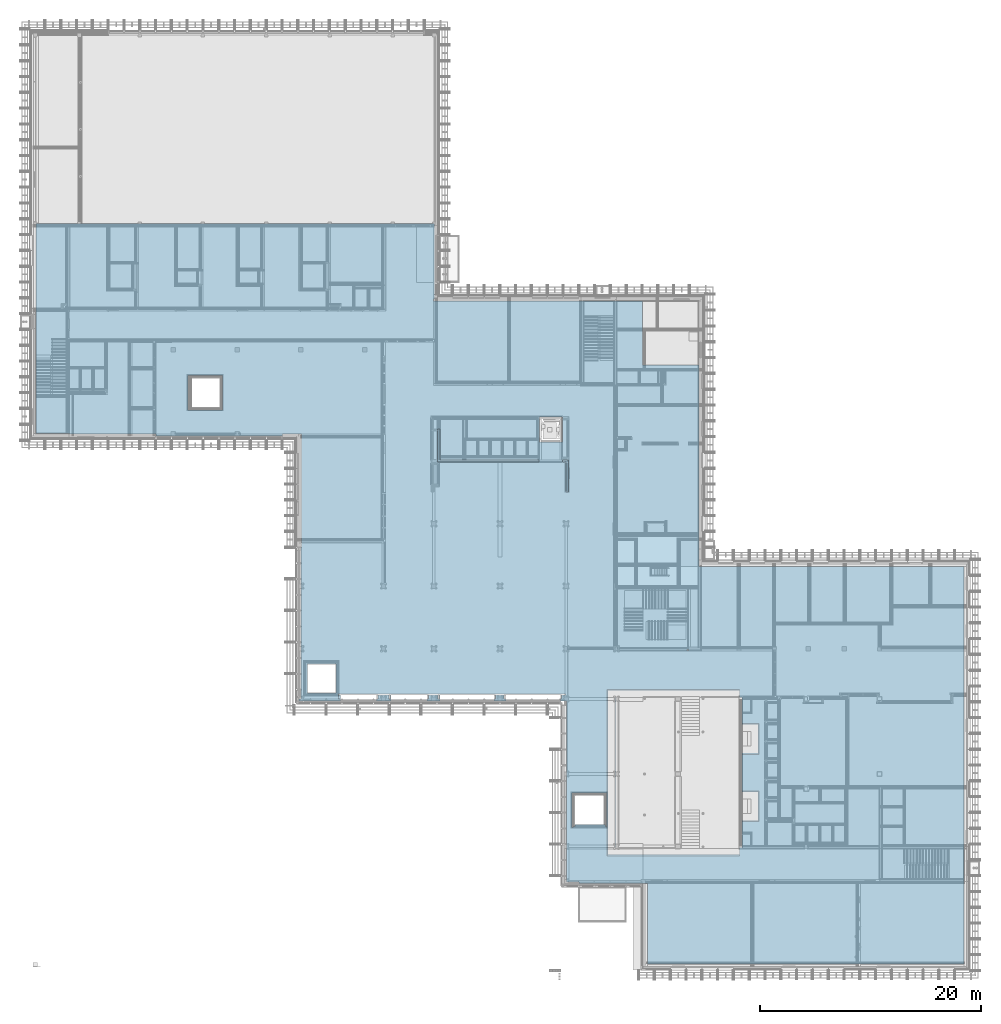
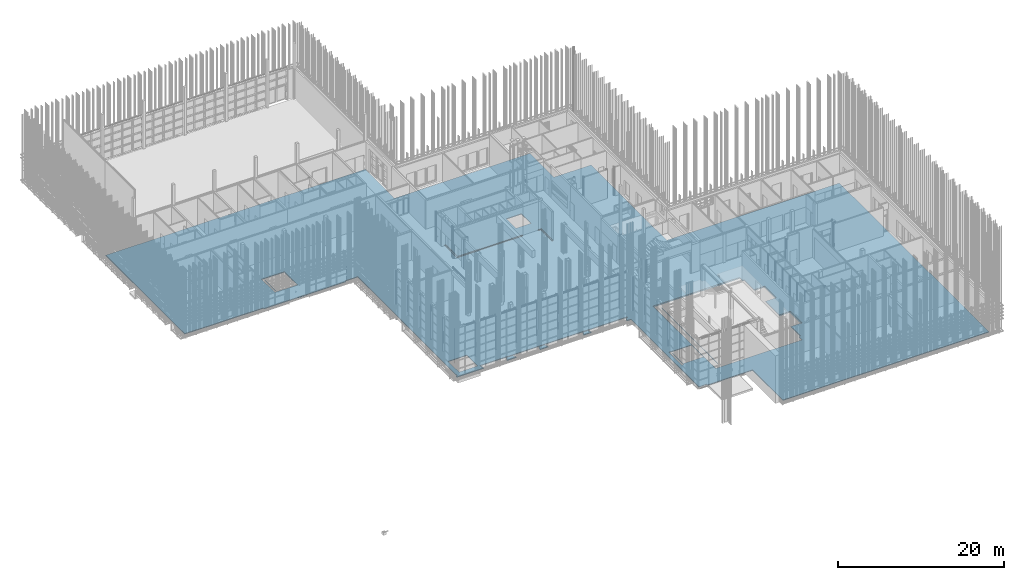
# One storey, part 165 of 260: 1 building element part, 1 element without a shape of its own.
"""IFC2X3 building model written with IfcOpenShell, lengths in millimetres."""

from ifc_helpers import new_model, entity, si_unit, converted_unit, derived_unit, money_unit, direction, frame, origin_with_axes, place, context, subcontext, project, spatial, faceted_brep, material, type_object, element, aggregate, save


model = new_model("IFC2X3")

# Units and contexts
model_context = context("Model", 3, precision=0.01, world=origin_with_axes(), true_north=direction((0.0, 1.0)))
body_context = subcontext(model_context, "Body", "Model", "MODEL_VIEW")
ifc_project = project(units=[si_unit("LENGTHUNIT", "METRE", prefix="MILLI"), si_unit("AREAUNIT", "SQUARE_METRE"), si_unit("VOLUMEUNIT", "CUBIC_METRE"), converted_unit("PLANEANGLEUNIT", "DEGREE", entity("IfcPlaneAngleMeasure", 0.0174532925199), si_unit("PLANEANGLEUNIT", "RADIAN"), dimensions=[0, 0, 0, 0, 0, 0, 0]), money_unit("EUR"), converted_unit("TIMEUNIT", "Year", entity("IfcTimeMeasure", 31556926.0), si_unit("TIMEUNIT", "SECOND"), dimensions=[0, 0, 1, 0, 0, 0, 0]), si_unit("MASSUNIT", "GRAM", prefix="KILO"), si_unit("THERMODYNAMICTEMPERATUREUNIT", "DEGREE_CELSIUS"), si_unit("LUMINOUSINTENSITYUNIT", "LUMEN"), si_unit("ENERGYUNIT", "JOULE", prefix="MEGA"), derived_unit("THERMALCONDUCTANCEUNIT", [(si_unit("POWERUNIT", "WATT"), 1), (si_unit("LENGTHUNIT", "METRE"), -1), (si_unit("THERMODYNAMICTEMPERATUREUNIT", "KELVIN"), -1)]), derived_unit("SPECIFICHEATCAPACITYUNIT", [(si_unit("ENERGYUNIT", "JOULE"), 1), (si_unit("MASSUNIT", "GRAM", prefix="KILO"), -1), (si_unit("THERMODYNAMICTEMPERATUREUNIT", "KELVIN"), -1)]), derived_unit("MASSDENSITYUNIT", [(si_unit("MASSUNIT", "GRAM", prefix="KILO"), 1), (si_unit("VOLUMEUNIT", "CUBIC_METRE"), -1)])], contexts=[model_context])

# Site, building, storey
site_placement = place(None, origin_with_axes())
site = spatial("IfcSite", under=ifc_project, at=site_placement, Name="Kolde pst 67a", CompositionType="ELEMENT")
building_placement = place(site_placement, origin_with_axes())
building = spatial("IfcBuilding", under=site, at=building_placement, Name="Riigigümnaasium", CompositionType="ELEMENT")
storey_placement = place(building_placement, origin_with_axes())
storey = spatial("IfcBuildingStorey", under=building, at=storey_placement, Name="1. korrus", CompositionType="ELEMENT", Elevation=0.0)

# Slab, building element part
slab_type = type_object("IfcSlabType", Name="PP-RBM-10/1_EPS 200 500", PredefinedType="NOTDEFINED")
slab_placement = place(storey_placement, frame((266.322784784, 67249.9971514, 0.0), z_axis=(0.0, 0.0, 1.0), x_axis=(1.0, 0.0, 0.0)))
slab = element("IfcSlab", 1, at=slab_placement, inside=storey, type_object=slab_type, Name="Põrand pinnasel", PredefinedType="NOTDEFINED")
ifc_material = material(Name="_SOOJUSTUS - vahtpolüstüreenplaadid EPS 120 Perimeeter, survetugevus min 120kPa, veeimavus <2%, soojuserijuhtivus λD<0,036 W/(mK)")
building_element_part_placement = place(slab_placement, origin_with_axes())
building_element_part = element("IfcBuildingElementPart", 2, at=building_element_part_placement, material=ifc_material, Name="_SOOJUSTUS - vahtpolüstüreenplaadid EPS 120 Perimeeter, survetugevus min 120kPa, veeimavus <2%, soojuserijuhtivus λD<0,036 W/(mK)", context=body_context, shape_type="Brep", body=[
    faceted_brep([(27381.5095656, -43000.0189812, -200.1), (27531.5095656, -43000.0206928, -200.1), (27531.5095656, -42650.2966921, -200.1), (27557.7759921, -42650.2966876, -200.1), (27557.7759921, -43209.7267572, -200.1), (23799.9457899, -43209.7267572, -200.1), (23799.9460972, -42999.9781126, -200.1), (23973.6799494, -42999.980095, -200.1), (23973.6799494, -29299.5005252, -200.1), (23999.9463759, -29299.500562, -200.1), (23999.9463759, -19050.0166275, -200.1), (22288.5650026, -19050.0163206, -200.1), (22288.5650026, -19210.0163206, -200.1), (10868.5385943, -19210.0163206, -200.1), (10868.5385943, -19050.0164764, -200.1), (2999.88406448, -19050.0165838, -200.1), (2999.88406628, -19009.9992035, -200.1), (0.0, -19010.7371507, -200.1), (0.0, 0.0, -200.1), (36039.9429015, 0.0, -200.1), (36039.9416319, -6809.99696703, -200.1), (35973.6764556, -6809.99696703, -200.1), (35973.6764556, -7009.99696703, -200.1), (54850.6592908, -7009.99696703, -200.1), (54850.6592908, -12479.9970931, -200.1), (54850.6592908, -12729.9970931, -200.1), (54876.9257173, -12729.9970931, -200.1), (54876.9257173, -12779.9970931, -200.1), (59999.9377357, -12779.9970931, -200.1), (59999.9377357, -31009.9974516, -200.1), (83973.6765431, -31009.9974516, -200.1), (83973.6765431, -67009.9971514, -200.1), (55329.9241436, -67009.9971514, -200.1), (55329.9251795, -59729.9852703, -200.1), (49105.2284207, -59729.9962674, -200.1), (49105.2303604, -59560.0076119, -200.1), (47983.4761046, -59559.9948118, -200.1), (47983.6626713, -43209.9991185, -200.1), (47799.9291214, -43209.997022, -200.1), (47436.9477703, -43209.9971514, -200.1), (47436.9477703, -42989.9933365, -200.1), (47560.6775752, -42989.9947483, -200.1), (47560.6814514, -42650.2966876, -200.1), (47902.308394, -42650.2966921, -200.1), (47902.308394, -42550.2966907, -200.099988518), (27168.5095656, -42550.2966907, -200.099988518), (27168.5095656, -42649.7267552, -200.1), (27531.5095656, -42649.7267552, -200.1), (27531.5095656, -42650.2966921, -200.1), (27381.5095656, -42650.2966921, -200.1), (58908.7339847, -38555.9974954, -200.1), (58908.7339847, -38629.9974954, -200.1), (59013.7339847, -38629.9974954, -200.1), (59013.7339847, -38555.9974954, -200.1), (65314.9582467, -51438.6519288, -200.1), (63889.4804024, -51438.6884709, -200.1), (63889.4798078, -47921.2980722, -200.1), (65314.8525688, -47921.2552742, -200.1), (65314.7749478, -45338.5952805, -200.1), (63889.479714, -45338.6380541, -200.1), (63889.4805108, -42900.0006175, -200.1), (63663.580611, -42899.9970244, -200.1), (63663.580611, -42258.6455916, -200.1), (51752.3198919, -42258.6456025, -200.1), (51752.3198919, -57111.3866315, -200.1), (63663.580611, -57111.3866426, -200.1), (63663.580611, -56470.0352098, -200.1), (63889.4805108, -56470.0352098, -200.1), (63889.4805108, -54021.3845595, -200.1), (65315.0359331, -54021.3480864, -200.1), (51621.6670287, -51502.0161939, -200.1), (51611.6670287, -51502.0161939, -200.1), (48485.6670287, -51502.0161939, -200.1), (48475.6670287, -51502.0161939, -200.1), (48475.6670287, -54648.0161939, -200.1), (48485.6670287, -54648.0161939, -200.1), (48485.6670287, -54638.0161939, -200.1), (48585.6670287, -54638.0161939, -200.1), (48585.6670287, -54538.0161939, -200.1), (48588.6670287, -54538.0161939, -200.1), (48588.6670287, -54535.0161939, -200.1), (48748.6670287, -54535.0161939, -200.1), (48748.6670287, -51775.0161939, -200.1), (48774.9334552, -51775.0161939, -200.1), (48774.9334552, -54375.0161939, -200.1), (51374.9334552, -54375.0161939, -200.1), (51508.6670287, -54375.0161939, -200.1), (51508.6670287, -54535.0161939, -200.1), (51511.6670287, -54535.0161939, -200.1), (51511.6670287, -54538.0161939, -200.1), (51611.6670287, -54538.0161939, -200.1), (51611.6670287, -54638.0161939, -200.1), (51621.6670287, -54638.0161939, -200.1), (45534.9291024, -19779.9971915, -200.1), (47634.9291054, -19779.9971915, -200.1), (47634.9291054, -17479.9971915, -200.1), (45534.9291024, -17479.9971915, -200.1), (16871.6777342, -16878.0095232, -200.1), (16871.6777342, -13742.0095232, -200.1), (16861.6777342, -13742.0095232, -200.1), (13735.6777342, -13742.0095232, -200.1), (13725.6777342, -13742.0095232, -200.1), (13725.6777342, -16888.0095232, -200.1), (13735.6777342, -16888.0095232, -200.1), (16871.6777342, -16888.0095232, -200.1), (24550.0004112, -39859.9971514, -200.1), (24550.0004112, -42459.9971514, -200.1), (27150.0004112, -42459.9971514, -200.1), (27150.0004112, -39859.9971514, -200.1), (27381.5095656, -43000.0189812, -100.099984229), (27531.5095656, -43000.0206928, -100.099984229), (27531.5095656, -42650.2966921, -100.099980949), (27557.7759921, -42650.2966888, -100.099984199), (27557.7759921, -43209.7267572, -100.1), (23799.9457899, -43209.7267572, -100.1), (23799.9460972, -42999.9781126, -100.1), (23973.6799494, -42999.980095, -100.1), (23973.6799494, -29299.5005252, -100.1), (23999.9463759, -29299.500562, -100.1), (23999.9463759, -19050.0166275, -100.1), (22288.5650026, -19050.0163206, -100.1), (22288.5650026, -19210.0163206, -100.1), (10868.5385943, -19210.0163206, -100.1), (10868.5385943, -19050.0164764, -100.1), (2999.88406448, -19050.0165838, -100.1), (2999.88406628, -19009.9992035, -100.1), (0.0, -19010.7371507, -100.1), (0.0, 0.0, -100.1), (36039.9429015, 0.0, -100.1), (36039.9416319, -6809.99696703, -100.1), (35973.6764556, -6809.99696703, -100.1), (35973.6764556, -7009.99696703, -100.1), (54850.6592908, -7009.99696703, -100.1), (54850.6592908, -7059.99696513, -100.1), (54850.6592908, -7059.99696513, -165.1), (54850.6592908, -12479.9970931, -165.1), (54850.6592908, -12729.9970931, -165.1), (54876.9257173, -12729.9970931, -165.1), (54876.9257173, -7059.99696513, -165.1), (54876.9257173, -7059.99696513, -100.1), (54876.9257173, -12779.9970931, -100.1), (59999.9377357, -12779.9970931, -100.1), (59999.9377357, -31009.9974516, -100.1), (83973.6765431, -31009.9974516, -100.1), (83973.6765431, -67009.9971514, -100.1), (55329.9241436, -67009.9971514, -100.1), (55329.9251795, -59729.9852703, -100.1), (49105.2284207, -59729.9962674, -100.1), (49105.2303604, -59560.0076119, -100.1), (47983.4761046, -59559.9948118, -100.1), (47983.6626713, -43209.9991185, -100.1), (47799.9291214, -43209.997022, -100.1), (47436.9477703, -43209.9971514, -100.1), (47436.9477703, -42989.9933365, -100.1), (47560.6775752, -42989.9947483, -100.1), (47560.6814514, -42650.2966921, -100.099981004), (47902.308394, -42650.2966921, -100.099980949), (47902.308394, -42550.2966919, -100.09999138), (27368.5095656, -42550.2966909, -100.09999764), (27368.5095656, -42550.2966909, -115.0), (27168.5095656, -42550.2966909, -115.0), (27168.5095656, -42649.7267552, -115.0), (27531.5095656, -42649.7267552, -115.0), (27368.5095656, -42649.7267552, -115.0), (27531.5095656, -42650.2966921, -115.0), (27381.5095656, -42650.2966921, -115.0), (27381.5095656, -42650.2966921, -100.099980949), (58908.7339847, -38555.9974954, -100.1), (58908.7339847, -38629.9974954, -100.1), (59013.7339847, -38629.9974954, -100.1), (59013.7339847, -38555.9974954, -100.1), (65414.9199034, -51338.6847034, -100.09999538), (65273.5038134, -51338.6883297, -100.09999538), (63889.4803855, -51338.7238096, -100.100001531), (63889.4798247, -48021.2627331, -100.100001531), (65414.8202368, -48021.2169354, -100.09999538), (65273.4041469, -48021.2211865, -100.100004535), (65414.736607, -45238.6276177, -100.09999538), (65273.320517, -45238.6318627, -100.09999538), (63889.4797466, -45238.6733928, -100.100001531), (63889.4805108, -42900.0006175, -100.1), (63663.580611, -42899.9970244, -100.1), (63663.580611, -42158.6809335, -100.100004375), (51793.77132, -42158.6809356, -100.100004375), (51652.35523, -42158.6809435, -100.099998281), (51652.35523, -57211.3512907, -100.099998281), (51793.77132, -57211.3512986, -100.100004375), (63663.580611, -57211.3513007, -100.100004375), (63663.580611, -56470.0352098, -100.1), (63889.4805108, -56470.0352098, -100.1), (63889.4805108, -54121.3492204, -100.100001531), (65273.5875136, -54121.3138086, -100.09999538), (65415.0036035, -54121.3101916, -100.09999538), (51621.6670287, -51502.0161939, -100.1), (51611.6670287, -51502.0161939, -100.1), (48485.6670287, -51502.0161939, -100.1), (48475.6670287, -51502.0161939, -100.1), (48475.6670287, -54648.0161939, -100.1), (48485.6670287, -54648.0161939, -100.1), (48485.6670287, -54638.0161939, -100.1), (48585.6670287, -54638.0161939, -100.1), (48585.6670287, -54538.0161939, -100.1), (48588.6670287, -54538.0161939, -100.1), (48588.6670287, -54535.0161939, -100.1), (48748.6670287, -54535.0161939, -100.1), (48748.6670287, -51775.0161939, -100.1), (48774.9334552, -51775.0161939, -100.1), (48774.9334552, -54375.0161939, -100.1), (51374.9334552, -54375.0161939, -100.1), (51508.6670287, -54375.0161939, -100.1), (51508.6670287, -54535.0161939, -100.1), (51511.6670287, -54535.0161939, -100.1), (51511.6670287, -54538.0161939, -100.1), (51611.6670287, -54538.0161939, -100.1), (51611.6670287, -54638.0161939, -100.1), (51621.6670287, -54638.0161939, -100.1), (45534.9291024, -19779.9971915, -100.1), (47634.9291054, -19779.9971915, -100.1), (47634.9291054, -17479.9971915, -100.1), (45534.9291024, -17479.9971915, -100.1), (16871.6777342, -16878.0095232, -100.1), (16871.6777342, -13742.0095232, -100.1), (16861.6777342, -13742.0095232, -100.1), (13735.6777342, -13742.0095232, -100.1), (13725.6777342, -13742.0095232, -100.1), (13725.6777342, -16888.0095232, -100.1), (13735.6777342, -16888.0095232, -100.1), (16871.6777342, -16888.0095232, -100.1), (24550.0004112, -39859.9971514, -100.1), (24550.0004112, -42459.9971514, -100.1), (27150.0004112, -42459.9971514, -100.1), (27150.0004112, -39859.9971514, -100.1), (27368.5095656, -42650.2966887, -100.099984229), (47958.6626813, -24264.9971915, -100.1), (47958.6626813, -21594.9971915, -100.1), (48158.6626813, -21594.9971915, -100.1), (48158.6626813, -24264.9971915, -100.1), (47608.6626759, -21579.9971915, -100.1), (47608.6626759, -21379.9971915, -100.1), (48173.6626813, -21379.997192, -100.1), (48173.6626813, -21579.9971911, -100.1), (36338.6764452, -18569.9968148, -100.1), (36538.6764452, -18569.9968148, -100.1), (36538.6764452, -21379.9971915, -100.1), (45508.6626759, -21379.9971915, -100.1), (45508.6626759, -21579.9971915, -100.1), (36338.6764452, -21579.9971915, -100.1), (27368.5095656, -42650.2966887, -115.0), (47958.6626813, -21594.9971915, -150.0), (47958.6626813, -24264.9971915, -150.0), (48158.6626813, -21594.9971915, -150.0), (48158.6626813, -24264.9971915, -150.0), (47608.6626759, -21579.9971915, -150.0), (47608.6626759, -21379.9971915, -150.0), (48173.6626813, -21379.997192, -150.0), (48173.6626813, -21579.9971911, -150.0), (36538.6764452, -18569.9968148, -150.0), (36338.6764452, -18569.9968148, -150.0), (36538.6764452, -21379.9971915, -150.0), (45508.6626759, -21379.9971915, -150.0), (45508.6626759, -21579.9971915, -150.0), (36338.6764452, -21579.9971915, -150.0)], [[[0, 1, 2, 3, 4, 5, 6, 7, 8, 9, 10, 11, 12, 13, 14, 15, 16, 17, 18, 19, 20, 21, 22, 23, 24, 25, 26, 27, 28, 29, 30, 31, 32, 33, 34, 35, 36, 37, 38, 39, 40, 41, 42, 43, 44, 45, 46, 47, 48, 49], [50, 51, 52, 53], [54, 55, 56, 57, 58, 59, 60, 61, 62, 63, 64, 65, 66, 67, 68, 69], [70, 71, 72, 73, 74, 75, 76, 77, 78, 79, 80, 81, 82, 83, 84, 85, 86, 87, 88, 89, 90, 91, 92], [93, 94, 95, 96], [97, 98, 99, 100, 101, 102, 103, 104], [105, 106, 107, 108]], [[109, 110, 1, 0]], [[110, 111, 2, 1]], [[111, 112, 3, 2]], [[4, 3, 112, 113]], [[5, 4, 113, 114]], [[6, 5, 114, 115]], [[7, 6, 115, 116]], [[7, 116, 117, 8]], [[9, 8, 117, 118]], [[10, 9, 118, 119]], [[11, 10, 119, 120]], [[12, 11, 120, 121]], [[13, 12, 121, 122]], [[14, 13, 122, 123]], [[15, 14, 123, 124]], [[16, 15, 124, 125]], [[17, 16, 125, 126]], [[17, 126, 127, 18]], [[18, 127, 128, 19]], [[20, 19, 128, 129]], [[21, 20, 129, 130]], [[22, 21, 130, 131]], [[23, 22, 131, 132]], [[132, 133, 134, 135, 24, 23]], [[25, 24, 135, 136]], [[26, 25, 136, 137]], [[137, 138, 139, 140, 27, 26]], [[28, 27, 140, 141]], [[29, 28, 141, 142]], [[30, 29, 142, 143]], [[144, 31, 30, 143]], [[32, 31, 144, 145]], [[33, 32, 145, 146]], [[147, 34, 33, 146]], [[35, 34, 147, 148]], [[36, 35, 148, 149]], [[36, 149, 150, 37]], [[38, 37, 150, 151]], [[39, 38, 151, 152]], [[39, 152, 153, 40]], [[41, 40, 153, 154]], [[154, 155, 42, 41]], [[42, 155, 156, 43]], [[43, 156, 157, 44]], [[44, 157, 158, 159, 160, 45]], [[161, 46, 45, 160]], [[162, 47, 46, 161, 163]], [[164, 48, 47, 162]], [[164, 165, 49, 48]], [[165, 166, 109, 0, 49]], [[51, 50, 167, 168]], [[52, 51, 168, 169]], [[53, 52, 169, 170]], [[50, 53, 170, 167]], [[54, 171, 172, 173, 55]], [[55, 173, 174, 56]], [[175, 57, 56, 174, 176]], [[58, 57, 175, 177]], [[58, 177, 178, 179, 59]], [[60, 59, 179, 180]], [[61, 60, 180, 181]], [[62, 61, 181, 182]], [[62, 182, 183, 184, 63]], [[185, 64, 63, 184]], [[64, 185, 186, 187, 65]], [[66, 65, 187, 188]], [[67, 66, 188, 189]], [[68, 67, 189, 190]], [[68, 190, 191, 192, 69]], [[69, 192, 171, 54]], [[71, 70, 193, 194]], [[72, 71, 194, 195]], [[73, 72, 195, 196]], [[197, 74, 73, 196]], [[75, 74, 197, 198]], [[76, 75, 198, 199]], [[77, 76, 199, 200]], [[78, 77, 200, 201]], [[79, 78, 201, 202]], [[80, 79, 202, 203]], [[81, 80, 203, 204]], [[82, 81, 204, 205]], [[83, 82, 205, 206]], [[84, 83, 206, 207]], [[85, 84, 207, 208]], [[86, 85, 208, 209]], [[87, 86, 209, 210]], [[88, 87, 210, 211]], [[212, 89, 88, 211]], [[90, 89, 212, 213]], [[91, 90, 213, 214]], [[92, 91, 214, 215]], [[92, 215, 193, 70]], [[94, 93, 216, 217]], [[95, 94, 217, 218]], [[96, 95, 218, 219]], [[93, 96, 219, 216]], [[98, 97, 220, 221]], [[99, 98, 221, 222]], [[100, 99, 222, 223]], [[101, 100, 223, 224]], [[102, 101, 224, 225]], [[103, 102, 225, 226]], [[104, 103, 226, 227]], [[97, 104, 227, 220]], [[106, 105, 228, 229]], [[107, 106, 229, 230]], [[108, 107, 230, 231]], [[105, 108, 231, 228]], [[109, 166, 232, 158, 157, 156, 155, 154, 153, 152, 151, 150, 149, 148, 147, 146, 145, 144, 143, 142, 141, 140, 139, 133, 132, 131, 130, 129, 128, 127, 126, 125, 124, 123, 122, 121, 120, 119, 118, 117, 116, 115, 114, 113, 112, 111, 110], [169, 168, 167, 170], [177, 175, 176, 174, 173, 172, 171, 192, 191, 190, 189, 188, 187, 186, 185, 184, 183, 182, 181, 180, 179, 178], [233, 234, 235, 236], [237, 238, 239, 240], [194, 193, 215, 214, 213, 212, 211, 210, 209, 208, 207, 206, 205, 204, 203, 202, 201, 200, 199, 198, 197, 196, 195], [216, 219, 218, 217], [241, 242, 243, 244, 245, 246], [222, 221, 220, 227, 226, 225, 224, 223], [229, 228, 231, 230]], [[134, 133, 139, 138]], [[134, 138, 137, 136, 135]], [[159, 158, 232, 247, 163]], [[163, 161, 160, 159]], [[165, 164, 162, 163, 247]], [[166, 165, 247, 232]], [[248, 234, 233, 249]], [[248, 250, 235, 234]], [[235, 250, 251, 236]], [[251, 249, 233, 236]], [[252, 253, 238, 237]], [[253, 254, 239, 238]], [[254, 255, 240, 239]], [[255, 252, 237, 240]], [[256, 242, 241, 257]], [[258, 243, 242, 256]], [[258, 259, 244, 243]], [[259, 260, 245, 244]], [[260, 261, 246, 245]], [[246, 261, 257, 241]], [[250, 248, 249, 251]], [[252, 255, 254, 253]], [[256, 257, 261, 260, 259, 258]]]),
    faceted_brep([(31926.6750961, -42650.2966876, -200.1), (31926.6750961, -42650.2966895, -100.099983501), (31926.6750961, -43000.0708452, -100.1), (31926.6750961, -43000.0708452, -200.1), (30940.6848933, -42650.2966893, -100.099983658), (30940.6848933, -42650.2966876, -200.1), (32102.9415226, -42650.2966895, -100.099983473), (32076.6750961, -42650.2966895, -100.099983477), (32076.6750961, -43000.0725568, -100.1), (30940.6848933, -43000.0595942, -100.1), (30816.9513198, -43000.0581823, -100.1), (30816.9513198, -43209.7267557, -100.1), (32102.9415226, -43209.7267557, -100.1), (32076.6750961, -43000.0725568, -200.1), (32076.6750961, -42650.2966876, -200.1), (32102.9415226, -42650.2966876, -200.1), (32102.9415226, -43209.7267557, -200.1), (30816.9513198, -43209.7267557, -200.1), (30816.9513198, -43000.0581823, -200.1), (30940.6848933, -43000.0595942, -200.1)], [[[0, 1, 2, 3]], [[4, 1, 0, 5]], [[6, 7, 8, 2, 1, 4, 9, 10, 11, 12]], [[3, 2, 8, 13]], [[14, 15, 16, 17, 18, 19, 5, 0, 3, 13]], [[4, 5, 19, 9]], [[7, 6, 15, 14]], [[7, 14, 13, 8]], [[19, 18, 10, 9]], [[17, 11, 10, 18]], [[16, 12, 11, 17]], [[15, 6, 12, 16]]]),
    faceted_brep([(36356.6715466, -42650.2966876, -200.1), (36356.6715466, -42650.2966902, -100.099982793), (36356.6715466, -43000.1213951, -100.1), (36356.6715466, -43000.1213951, -200.1), (35490.6813438, -42650.2966901, -100.099982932), (35490.6813438, -42650.2966876, -200.1), (36532.9379731, -42650.2966903, -100.099982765), (36506.6715466, -42650.2966902, -100.099982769), (36506.6715466, -43000.1231067, -100.1), (35490.6813438, -43000.1115134, -100.1), (35366.9477703, -43000.1101015, -100.1), (35366.9477703, -43209.7267557, -100.1), (36532.9379731, -43209.7267557, -100.1), (36506.6715466, -43000.1231067, -200.1), (36506.6715466, -42650.2966876, -200.1), (36532.9379731, -42650.2966876, -200.1), (36532.9379731, -43209.7267557, -200.1), (35366.9477703, -43209.7267557, -200.1), (35366.9477703, -43000.1101015, -200.1), (35490.6813438, -43000.1115134, -200.1)], [[[0, 1, 2, 3]], [[4, 1, 0, 5]], [[6, 7, 8, 2, 1, 4, 9, 10, 11, 12]], [[3, 2, 8, 13]], [[14, 15, 16, 17, 18, 19, 5, 0, 3, 13]], [[4, 5, 19, 9]], [[7, 6, 15, 14]], [[7, 14, 13, 8]], [[18, 10, 9, 19]], [[17, 11, 10, 18]], [[17, 16, 12, 11]], [[15, 6, 12, 16]]]),
    faceted_brep([(42354.6715466, -42650.2966876, -200.1), (42354.6715466, -42650.2966912, -100.099981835), (42354.6715466, -43000.1898371, -100.1), (42354.6715466, -43000.1898371, -200.1), (41560.6813438, -42650.2966911, -100.099981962), (41560.6813438, -42650.2966876, -200.1), (42530.9379731, -42650.2966913, -100.099981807), (42504.6715466, -42650.2966912, -100.099981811), (42504.6715466, -43000.1915488, -100.1), (41560.6813438, -43000.1807771, -100.1), (41436.9477703, -43000.1793652, -100.1), (41436.9477703, -43209.9971514, -100.1), (42530.9379731, -43209.9971514, -100.1), (42504.6715466, -43000.1915488, -200.1), (42504.6715466, -42650.2966876, -200.1), (42530.9379731, -42650.2966876, -200.1), (42530.9379731, -43209.9971514, -200.1), (41436.9477703, -43209.9971514, -200.1), (41436.9477703, -43000.1793652, -200.1), (41560.6813438, -43000.1807771, -200.1)], [[[0, 1, 2, 3]], [[4, 1, 0, 5]], [[6, 7, 8, 2, 1, 4, 9, 10, 11, 12]], [[3, 2, 8, 13]], [[14, 15, 16, 17, 18, 19, 5, 0, 3, 13]], [[4, 5, 19, 9]], [[7, 6, 15, 14]], [[7, 14, 13, 8]], [[18, 10, 9, 19]], [[17, 11, 10, 18]], [[16, 12, 11, 17]], [[15, 6, 12, 16]]]),
    faceted_brep([(52393.6713209, -56470.0352098, -100.1), (52419.9377639, -56470.0352098, -100.1), (52419.9377639, -42899.9970244, -100.1), (52393.6713209, -42899.9970244, -100.1), (52419.9377639, -56470.0352098, -200.1), (52393.6713209, -56470.0352098, -200.099999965), (52419.9377639, -42899.9970244, -200.1), (52393.6713209, -42899.9970244, -200.099999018)], [[[0, 1, 2, 3]], [[4, 1, 0, 5]], [[1, 4, 6, 2]], [[2, 6, 7, 3]], [[5, 0, 3, 7]], [[4, 5, 7, 6]]]),
    faceted_brep([(14024.9441607, -14015.0095232, -200.1), (14024.9441607, -14015.0095232, -100.1), (14024.9441607, -16615.0095232, -100.1), (14024.9441607, -16615.0095232, -200.1), (13998.6777342, -14015.0095232, -100.1), (13998.6777342, -14015.0095232, -200.1), (13998.6777342, -16615.0095232, -100.1), (13998.6777342, -16615.0095232, -200.1)], [[[0, 1, 2, 3]], [[4, 1, 0, 5]], [[1, 4, 6, 2]], [[6, 7, 3, 2]], [[5, 0, 3, 7]], [[4, 5, 7, 6]]]),
])
aggregate(slab, [building_element_part])

save(model, "model.ifc")
